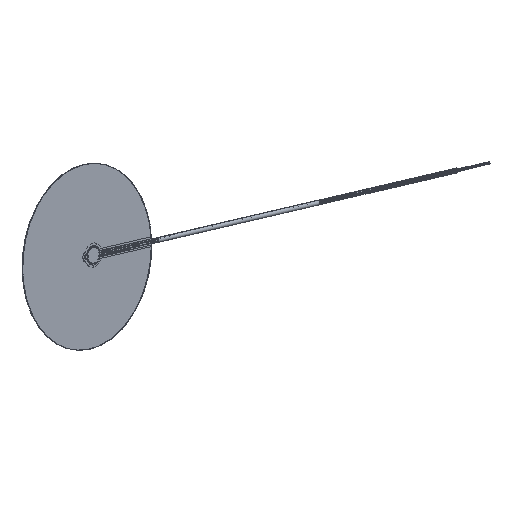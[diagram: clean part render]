
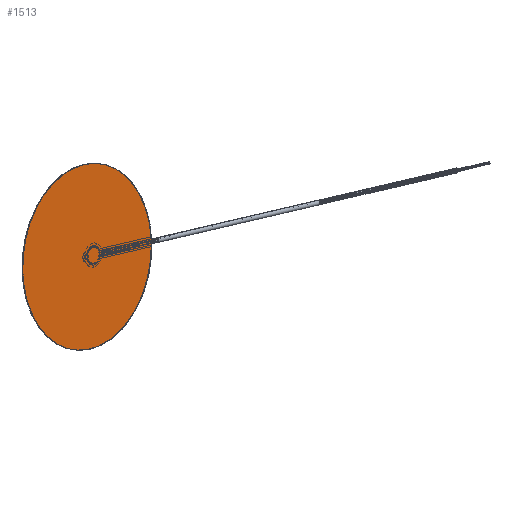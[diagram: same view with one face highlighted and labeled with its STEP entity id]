
A CAD part, left-side view. The second image highlights one B-rep face of the part: STEP entity #1513.
In plain terms, the highlighted planar face has unit normal (-0.677, -0.728, -0.108) as drawn and (0, -1, 0) by its records, which use the part's own axes.
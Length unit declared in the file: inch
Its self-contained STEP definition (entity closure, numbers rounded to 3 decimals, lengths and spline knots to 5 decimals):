
#128=CIRCLE('',#1774,1.);
#285=FACE_OUTER_BOUND('',#385,.T.);
#385=EDGE_LOOP('',(#1036));
#643=VERTEX_POINT('',#2308);
#798=EDGE_CURVE('',#643,#643,#128,.T.);
#1036=ORIENTED_EDGE('',*,*,#798,.T.);
#1475=PLANE('',#1775);
#1513=ADVANCED_FACE('',(#285),#1475,.F.);
#1774=AXIS2_PLACEMENT_3D('',#2310,#1932,#1933);
#1775=AXIS2_PLACEMENT_3D('',#2311,#1934,#1935);
#1932=DIRECTION('center_axis',(0.,-1.,0.));
#1933=DIRECTION('ref_axis',(1.,0.,0.));
#1934=DIRECTION('center_axis',(0.,1.,0.));
#1935=DIRECTION('ref_axis',(0.,0.,1.));
#2308=CARTESIAN_POINT('',(-1.,0.,0.));
#2310=CARTESIAN_POINT('Origin',(0.,0.,0.));
#2311=CARTESIAN_POINT('Origin',(0.,0.,0.));
